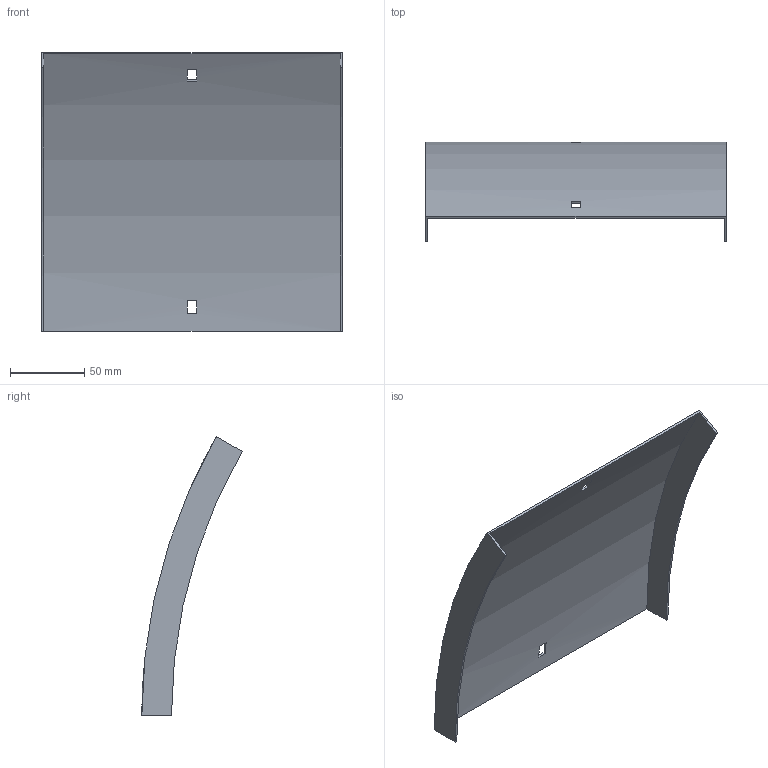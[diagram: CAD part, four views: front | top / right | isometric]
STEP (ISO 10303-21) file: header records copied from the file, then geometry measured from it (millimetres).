
FILE_DESCRIPTION (( 'STEP AP214' ), '1' );
FILE_NAME ('B2_35N3C200.step', '2025-02-21T10:31:46', ( '' ), ( '' ), 'SwSTEP 2.0', 'SolidWorks 2023', '' );
FILE_SCHEMA (( 'AUTOMOTIVE_DESIGN' ));
Length unit declared in the file: millimetre
Products named in the file (1): B2_35N3C200
Bounding box: 203 x 67.76 x 188.25 mm (x, y, z)
Volume: 70360.9 mm3; surface area: 95188.8 mm2
Topology: 1 solids, 1 shells, 18 faces, 48 edges, 32 vertices
Faces by surface type: plane 14, cylinder 4
Entity records: 599 total; most frequent: DIRECTION 102, CARTESIAN_POINT 99, ORIENTED_EDGE 96, EDGE_CURVE 48, AXIS2_PLACEMENT_3D 35, VECTOR 32, LINE 32, VERTEX_POINT 32
